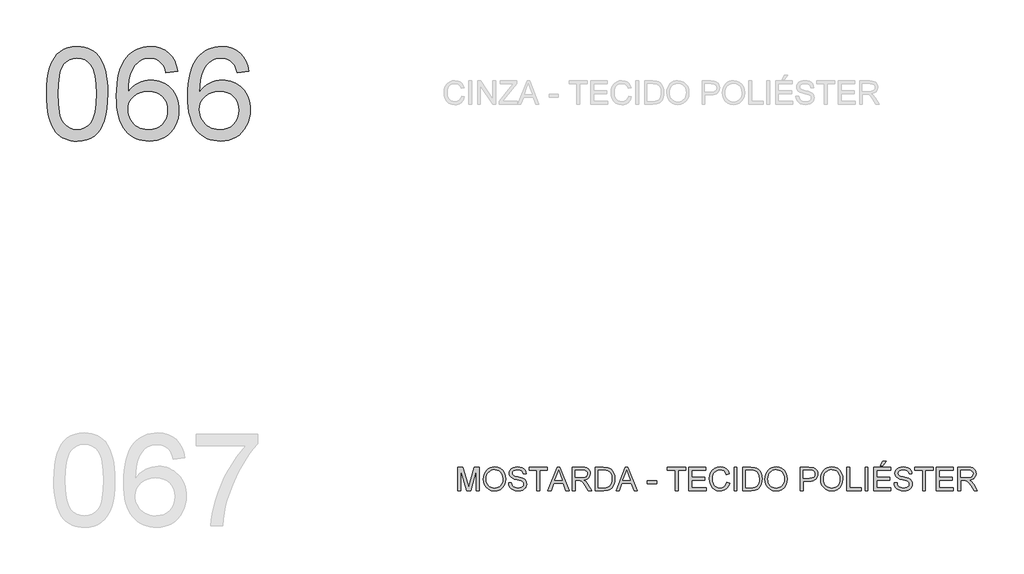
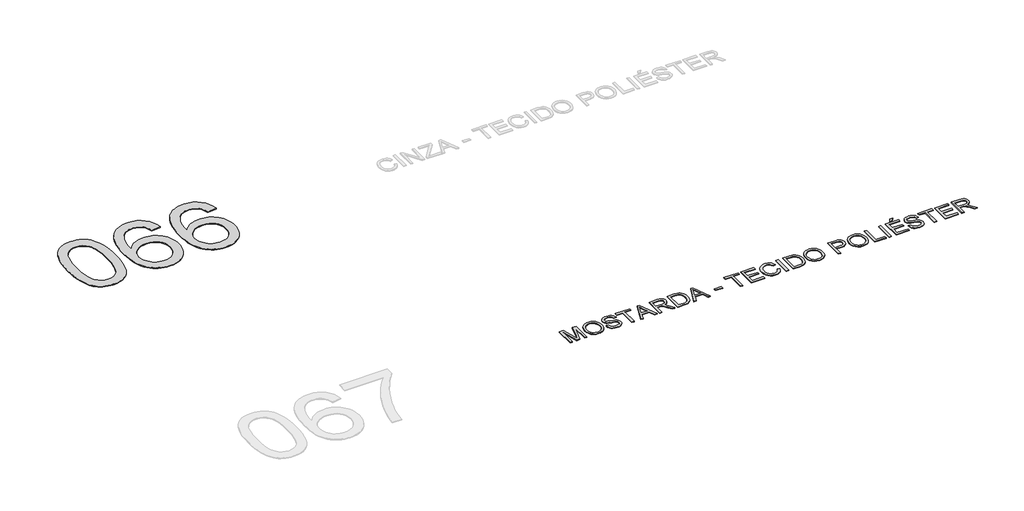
# One storey, part 10 of 35: 2 proxies.
"""IFC4 building model written with IfcOpenShell, lengths in millimetres."""

from ifc_helpers import new_model, si_unit, origin, origin_with_axes, place, context, project, spatial, polyline, outline, extrude, element, save

model = new_model("IFC4")

# Units and contexts
model_context = context("Model", 3, world=origin())
ifc_project = project(units=[si_unit("LENGTHUNIT", "METRE", prefix="MILLI")], contexts=[model_context])

# Site, building, storey
site = spatial("IfcSite", under=ifc_project)
building = spatial("IfcBuilding", under=site)
storey = spatial("IfcBuildingStorey", under=building, Name="Marelli - Linha YOU - Planta Baixa", Elevation=0.0)

# Proxies
placement = place(None, origin())
element("IfcBuildingElementProxy", 1, Name="1200mm Arial", ObjectType="1200mm Arial", at=placement, inside=storey, context=model_context, shape_type="SweptSolid", body=[
    extrude(outline(polyline([(-25275.30917, -89895.792664), (-25272.540858, -89794.4319773), (-25264.2359219, -89702.8385576), (-25250.3943618, -89621.0124048), (-25231.0161777, -89548.953519), (-25206.1841431, -89486.073289), (-25175.9810313, -89431.7831035), (-25140.4068423, -89386.0829627), (-25099.4615763, -89348.9728664), (-25053.0072773, -89320.2596767), (-25000.9059898, -89299.7502555), (-24943.1577136, -89287.4446027), (-24879.7624488, -89283.3427185), (-24832.1217304, -89285.7707396), (-24786.9090332, -89293.0548031), (-24744.1243571, -89305.194909), (-24703.7677023, -89322.1910572), (-24666.8139558, -89343.7581391), (-24634.2380052, -89369.6110463), (-24606.0398502, -89399.7497788), (-24582.2194911, -89434.1743365), (-24561.5813111, -89472.7467637), (-24542.929694, -89515.3291046), (-24511.586148, -89612.5235278), (-24499.611589, -89669.6831928), (-24491.0583327, -89735.9479371), (-24485.9263788, -89811.3177609), (-24484.2157275, -89895.792664), (-24486.9564484, -89996.5095573), (-24495.178611, -90087.6431245), (-24508.8822153, -90169.1933658), (-24528.0672614, -90241.1602811), (-24552.706158, -90304.0681023), (-24582.771314, -90358.4410612), (-24618.2627295, -90404.2791578), (-24659.1804044, -90441.5823921), (-24705.6898857, -90470.4887199), (-24757.9567202, -90491.1360968), (-24815.9809078, -90503.524523), (-24879.7624488, -90507.6539984), (-24922.4367602, -90505.8605737), (-24962.7566269, -90500.4802995), (-25000.7220488, -90491.5131759), (-25036.3330259, -90478.9592028), (-25069.5895583, -90462.8183803), (-25100.4916459, -90443.0907083), (-25129.0392887, -90419.7761868), (-25155.2324867, -90392.8748159), (-25183.3754594, -90350.2786794), (-25207.7660357, -90302.0999336), (-25228.4042156, -90248.3385785), (-25245.2899992, -90188.9946142), (-25258.4233864, -90124.0680406), (-25267.8043773, -90053.5588577), (-25273.4329718, -89977.4670655), (-25275.30917, -89895.792664)]), holes=[polyline([(-25124.6247047, -89895.4983584), (-25120.2101208, -90026.4919399), (-25106.966369, -90132.5247279), (-25097.0335551, -90176.1808245), (-25084.8934493, -90213.5967226), (-25070.5460515, -90244.7724225), (-25053.9913617, -90269.7079239), (-25016.614551, -90307.884878), (-24975.1174619, -90335.1541309), (-24929.5000945, -90351.5156826), (-24879.7624488, -90356.9695332), (-24830.024803, -90351.4972885), (-24784.4074356, -90335.0805545), (-24742.9103465, -90307.7193311), (-24705.5335358, -90269.4136183), (-24688.9788461, -90244.418336), (-24674.6314482, -90213.2104465), (-24662.4913424, -90175.7899498), (-24652.5585285, -90132.1568459), (-24639.3147767, -90026.2528166), (-24634.9001928, -89895.4983584), (-24639.1676239, -89767.9720648), (-24651.9699173, -89663.8062779), (-24661.5716374, -89620.4835744), (-24673.3070731, -89583.0009976), (-24687.1762243, -89551.3585475), (-24703.1790911, -89525.5562241), (-24739.9305024, -89485.5122689), (-24781.905838, -89456.9094438), (-24829.105098, -89439.7477487), (-24881.5282823, -89434.0271837), (-24931.0084107, -89439.067167), (-24975.8532259, -89454.187117), (-25016.062728, -89479.3870337), (-25051.6369169, -89514.666917), (-25068.7434297, -89543.2145599), (-25083.5690741, -89577.2068562), (-25096.1138501, -89616.6438061), (-25106.3777578, -89661.5254095), (-25120.062968, -89767.6225769), (-25124.6247047, -89895.4983584)])]), origin_with_axes(), (0.0, 0.0, 1.0), 10.0),
    extrude(outline(polyline([(-23580.1089362, -89603.5472071), (-23730.7934014, -89622.3827652), (-23741.8666495, -89582.0812927), (-23755.0736131, -89547.7027202), (-23770.4142923, -89519.2470479), (-23787.8886871, -89496.7142757), (-23820.2806967, -89469.2886729), (-23856.2411618, -89449.6989567), (-23895.7700822, -89437.9451269), (-23938.8674579, -89434.0271837), (-23974.4048586, -89436.3080521), (-24008.9121898, -89443.1506572), (-24042.3894513, -89454.554999), (-24074.8366433, -89470.5210776), (-24104.4419469, -89496.6315022), (-24131.4536824, -89528.1681863), (-24155.8718498, -89565.1311297), (-24177.6964492, -89607.5203326), (-24195.7686522, -89658.1316981), (-24208.9296306, -89719.7611293), (-24217.1793843, -89792.4086263), (-24220.5179134, -89876.0741891), (-24191.7955266, -89838.2099347), (-24160.0749016, -89805.5512106), (-24125.3560383, -89778.0980167), (-24087.6389367, -89755.8503531), (-24047.9352724, -89738.6610669), (-24007.2567208, -89726.3830053), (-23965.6032819, -89719.0161683), (-23922.9749557, -89716.560556), (-23886.0763916, -89718.2390176), (-23850.575779, -89723.2744024), (-23816.4731181, -89731.6667104), (-23783.7684087, -89743.4159416), (-23752.4616509, -89758.5220961), (-23722.5528447, -89776.9851737), (-23694.0419901, -89798.8051745), (-23666.9290871, -89823.9820986), (-23642.1660303, -89851.81697), (-23620.7047144, -89881.6108131), (-23602.5451394, -89913.3636278), (-23587.6873053, -89947.0754142), (-23576.1312121, -89982.7461721), (-23567.8768599, -90020.3759017), (-23562.9242485, -90059.9646029), (-23561.273378, -90101.5122757), (-23564.3819809, -90156.4462547), (-23573.7077895, -90209.4120649), (-23589.2508038, -90260.4097065), (-23611.0110238, -90309.4391794), (-23638.2158973, -90354.6702707), (-23670.0928722, -90394.2727675), (-23706.6419484, -90428.2466698), (-23747.863126, -90456.5919775), (-23792.8734881, -90478.9316116), (-23840.790118, -90494.8884932), (-23891.6130156, -90504.4626221), (-23945.342181, -90507.6539984), (-23991.3435252, -90505.5386769), (-24035.1697672, -90499.1927125), (-24076.8209068, -90488.6161052), (-24116.2969442, -90473.8088549), (-24153.5978792, -90454.7709616), (-24188.723712, -90431.5024254), (-24221.6744424, -90404.0032463), (-24252.4500706, -90372.2734242), (-24280.2826428, -90335.6875598), (-24304.4042053, -90293.6202536), (-24324.8147583, -90246.0715057), (-24341.5143016, -90193.0413161), (-24354.5028353, -90134.5296848), (-24363.7803594, -90070.5366117), (-24369.3468738, -90001.062097), (-24371.2023786, -89926.1061404), (-24369.1422394, -89842.1784618), (-24362.9618219, -89764.1828803), (-24352.6611261, -89692.1193959), (-24338.2401519, -89625.9880088), (-24319.6988993, -89565.7887188), (-24297.0373684, -89511.521526), (-24270.2555591, -89463.1864303), (-24239.3534716, -89420.7834319), (-24209.3388993, -89388.5707647), (-24176.8319265, -89360.6531198), (-24141.8325532, -89337.0304971), (-24104.3407793, -89317.7028968), (-24064.356605, -89302.6703188), (-24021.8800301, -89291.9327631), (-23976.9110547, -89285.4902296), (-23929.4496788, -89283.3427185), (-23860.0487404, -89288.6586133), (-23797.2328897, -89304.6062978), (-23741.0021268, -89331.1857719), (-23691.3564515, -89368.3970358), (-23649.6386333, -89414.9892904), (-23617.1914413, -89469.7117372), (-23594.0148756, -89532.5643761), (-23580.1089362, -89603.5472071)]), holes=[polyline([(-24220.5179134, -90099.157831), (-24218.3382126, -90132.9202011), (-24211.7991101, -90165.9284131), (-24200.900606, -90198.182467), (-24185.6427003, -90229.6823629), (-24166.7703539, -90258.9473756), (-24145.028528, -90284.4967801), (-24120.4172225, -90306.3305766), (-24092.9364375, -90324.4487648), (-24062.7609168, -90338.676601), (-24030.0654045, -90348.8393411), (-23994.8499005, -90354.9369852), (-23957.1144049, -90356.9695332), (-23904.7372058, -90352.7572843), (-23857.6759016, -90340.1205378), (-23815.9304922, -90319.0592936), (-23779.5009776, -90289.5735517), (-23749.9508563, -90252.8589286), (-23728.8436268, -90210.1110407), (-23716.1792892, -90161.3298882), (-23711.9578433, -90106.5154709), (-23716.1241069, -90053.8439662), (-23728.6228976, -90007.0769676), (-23749.4542156, -89966.214475), (-23778.6180608, -89931.2564884), (-23815.15794, -89903.2514715), (-23858.1173599, -89883.247888), (-23907.4963208, -89871.2457379), (-23963.2948224, -89867.2450212), (-24014.9730456, -89871.2457379), (-24062.5861729, -89883.247888), (-24106.134204, -89903.2514715), (-24145.6171392, -89931.2564884), (-24178.3862279, -89965.7546225), (-24201.7927198, -90005.2375576), (-24215.836615, -90049.7052938), (-24220.5179134, -90099.157831)])]), origin_with_axes(), (0.0, 0.0, 1.0), 10.0),
    extrude(outline(polyline([(-22657.1665867, -89603.5472071), (-22807.8510519, -89622.3827652), (-22818.9243, -89582.0812927), (-22832.1312636, -89547.7027202), (-22847.4719428, -89519.2470479), (-22864.9463376, -89496.7142757), (-22897.3383472, -89469.2886729), (-22933.2988123, -89449.6989567), (-22972.8277327, -89437.9451269), (-23015.9251084, -89434.0271837), (-23051.4625091, -89436.3080521), (-23085.9698403, -89443.1506572), (-23119.4471018, -89454.554999), (-23151.8942938, -89470.5210776), (-23181.4995974, -89496.6315022), (-23208.5113329, -89528.1681863), (-23232.9295003, -89565.1311297), (-23254.7540997, -89607.5203326), (-23272.8263027, -89658.1316981), (-23285.9872811, -89719.7611293), (-23294.2370348, -89792.4086263), (-23297.5755639, -89876.0741891), (-23268.8531771, -89838.2099347), (-23237.1325521, -89805.5512106), (-23202.4136888, -89778.0980167), (-23164.6965872, -89755.8503531), (-23124.9929229, -89738.6610669), (-23084.3143713, -89726.3830053), (-23042.6609324, -89719.0161683), (-23000.0326062, -89716.560556), (-22963.1340421, -89718.2390176), (-22927.6334295, -89723.2744024), (-22893.5307686, -89731.6667104), (-22860.8260592, -89743.4159416), (-22829.5193014, -89758.5220961), (-22799.6104952, -89776.9851737), (-22771.0996406, -89798.8051745), (-22743.9867376, -89823.9820986), (-22719.2236808, -89851.81697), (-22697.7623649, -89881.6108131), (-22679.6027899, -89913.3636278), (-22664.7449558, -89947.0754142), (-22653.1888626, -89982.7461721), (-22644.9345104, -90020.3759017), (-22639.981899, -90059.9646029), (-22638.3310285, -90101.5122757), (-22641.4396314, -90156.4462547), (-22650.76544, -90209.4120649), (-22666.3084543, -90260.4097065), (-22688.0686743, -90309.4391794), (-22715.2735478, -90354.6702707), (-22747.1505227, -90394.2727675), (-22783.6995989, -90428.2466698), (-22824.9207765, -90456.5919775), (-22869.9311386, -90478.9316116), (-22917.8477685, -90494.8884932), (-22968.6706661, -90504.4626221), (-23022.3998315, -90507.6539984), (-23068.4011757, -90505.5386769), (-23112.2274177, -90499.1927125), (-23153.8785573, -90488.6161052), (-23193.3545947, -90473.8088549), (-23230.6555297, -90454.7709616), (-23265.7813625, -90431.5024254), (-23298.7320929, -90404.0032463), (-23329.5077211, -90372.2734242), (-23357.3402933, -90335.6875598), (-23381.4618558, -90293.6202536), (-23401.8724088, -90246.0715057), (-23418.5719521, -90193.0413161), (-23431.5604858, -90134.5296848), (-23440.8380099, -90070.5366117), (-23446.4045243, -90001.062097), (-23448.2600291, -89926.1061404), (-23446.19989, -89842.1784618), (-23440.0194724, -89764.1828803), (-23429.7187766, -89692.1193959), (-23415.2978024, -89625.9880088), (-23396.7565498, -89565.7887188), (-23374.0950189, -89511.521526), (-23347.3132096, -89463.1864303), (-23316.4111221, -89420.7834319), (-23286.3965498, -89388.5707647), (-23253.889577, -89360.6531198), (-23218.8902037, -89337.0304971), (-23181.3984298, -89317.7028968), (-23141.4142555, -89302.6703188), (-23098.9376806, -89291.9327631), (-23053.9687052, -89285.4902296), (-23006.5073293, -89283.3427185), (-22937.1063909, -89288.6586133), (-22874.2905402, -89304.6062978), (-22818.0597773, -89331.1857719), (-22768.414102, -89368.3970358), (-22726.6962838, -89414.9892904), (-22694.2490918, -89469.7117372), (-22671.0725261, -89532.5643761), (-22657.1665867, -89603.5472071)]), holes=[polyline([(-23297.5755639, -90099.157831), (-23295.3958631, -90132.9202011), (-23288.8567606, -90165.9284131), (-23277.9582565, -90198.182467), (-23262.7003508, -90229.6823629), (-23243.8280044, -90258.9473756), (-23222.0861785, -90284.4967801), (-23197.474873, -90306.3305766), (-23169.994088, -90324.4487648), (-23139.8185673, -90338.676601), (-23107.123055, -90348.8393411), (-23071.907551, -90354.9369852), (-23034.1720554, -90356.9695332), (-22981.7948563, -90352.7572843), (-22934.7335521, -90340.1205378), (-22892.9881427, -90319.0592936), (-22856.5586281, -90289.5735517), (-22827.0085068, -90252.8589286), (-22805.9012773, -90210.1110407), (-22793.2369397, -90161.3298882), (-22789.0154938, -90106.5154709), (-22793.1817574, -90053.8439662), (-22805.6805481, -90007.0769676), (-22826.5118661, -89966.214475), (-22855.6757113, -89931.2564884), (-22892.2155905, -89903.2514715), (-22935.1750105, -89883.247888), (-22984.5539713, -89871.2457379), (-23040.3524729, -89867.2450212), (-23092.0306961, -89871.2457379), (-23139.6438234, -89883.247888), (-23183.1918545, -89903.2514715), (-23222.6747897, -89931.2564884), (-23255.4438784, -89965.7546225), (-23278.8503703, -90005.2375576), (-23292.8942655, -90049.7052938), (-23297.5755639, -90099.157831)])]), origin_with_axes(), (0.0, 0.0, 1.0), 10.0),
])
element("IfcBuildingElementProxy", 2, Name="300mm Arial", ObjectType="300mm Arial", at=placement, inside=storey, context=model_context, shape_type="SweptSolid", body=[
    extrude(outline(polyline([(-19950.8161366, -95030.5663201), (-19950.8161366, -94729.1973896), (-19885.9953291, -94729.1973896), (-19824.3383067, -94941.6124536), (-19811.9038953, -94985.9790223), (-19798.4394142, -94937.9336337), (-19737.8124614, -94729.1973896), (-19672.9916539, -94729.1973896), (-19672.9916539, -95030.5663201), (-19710.6627702, -95030.5663201), (-19710.6627702, -94766.8685059), (-19786.3728848, -95030.5663201), (-19837.4349057, -95030.5663201), (-19913.1450203, -94766.8685059), (-19913.1450203, -95030.5663201), (-19950.8161366, -95030.5663201)])), origin_with_axes(), (0.0, 0.0, 1.0), 10.0),
    extrude(outline(polyline([(-19621.193869, -94883.8549804), (-19618.6830744, -94848.5061192), (-19611.1506905, -94817.213157), (-19598.5967174, -94789.9760937), (-19581.0211551, -94766.7949295), (-19559.4770658, -94748.2858666), (-19535.0175116, -94735.0651074), (-19507.6424926, -94727.1326519), (-19477.3520089, -94724.4885001), (-19437.8230885, -94729.454907), (-19402.3776582, -94744.3541278), (-19372.9470986, -94768.1376988), (-19351.4627901, -94799.7571563), (-19338.3294029, -94837.68579), (-19333.9516071, -94880.3968896), (-19338.5593291, -94923.6782064), (-19352.3824951, -94962.140269), (-19374.6577499, -94993.8149088), (-19404.6217384, -95016.733957), (-19439.763666, -95030.6398965), (-19477.5727381, -95035.2752096), (-19517.7086637, -95030.1524528), (-19553.3564291, -95014.7841825), (-19582.7134123, -94990.5591531), (-19603.9769916, -94958.8661192), (-19616.8896496, -94922.3998164), (-19621.193869, -94883.8549804)]), holes=[polyline([(-19583.5227527, -94884.2228624), (-19581.6396567, -94909.1974513), (-19575.9903688, -94931.3669401), (-19566.574889, -94950.7313286), (-19553.3932173, -94967.2906169), (-19537.3696571, -94980.5527628), (-19519.4285121, -94990.0257242), (-19499.5697821, -94995.709501), (-19477.7934672, -94997.6040933), (-19455.6446719, -94995.6911069), (-19435.5514172, -94989.9521478), (-19417.5137031, -94980.3872159), (-19401.5315296, -94966.9963113), (-19388.4464269, -94950.0875351), (-19379.099925, -94929.9689885), (-19373.4920238, -94906.6406715), (-19371.6227234, -94880.102584), (-19374.8232968, -94846.7540812), (-19384.4250169, -94817.9305269), (-19400.1795633, -94794.358488), (-19421.8386158, -94776.7645316), (-19447.9674345, -94765.8108452), (-19477.1312797, -94762.1596164), (-19498.1511372, -94763.9185522), (-19517.6534814, -94769.1953595), (-19535.6383125, -94777.9900385), (-19552.1056303, -94790.302589), (-19565.8506213, -94806.7262208), (-19575.6684721, -94827.8541437), (-19581.5591825, -94853.6863575), (-19583.5227527, -94884.2228624)])]), origin_with_axes(), (0.0, 0.0, 1.0), 10.0),
    extrude(outline(polyline([(-19296.2804908, -94926.9707502), (-19258.6093745, -94926.9707502), (-19254.2867611, -94947.8756446), (-19246.4692687, -94964.6786547), (-19234.2739805, -94978.0143771), (-19216.8179799, -94988.517408), (-19195.4808241, -94995.332422), (-19171.6420709, -94997.6040933), (-19150.654403, -94995.884245), (-19132.2786974, -94990.7247), (-19117.3886736, -94982.5577197), (-19106.8580515, -94971.8155654), (-19100.5948605, -94959.4823216), (-19098.5071302, -94946.5420724), (-19100.0706287, -94933.932917), (-19104.7611241, -94923.0344129), (-19114.2892678, -94913.7361955), (-19130.365711, -94905.9279001), (-19185.2169165, -94891.5437141), (-19221.2233668, -94882.0247675), (-19244.2619767, -94872.9656733), (-19263.0147614, -94860.2921386), (-19276.3044985, -94844.9330653), (-19284.2231584, -94827.2195472), (-19286.8627118, -94807.4826782), (-19283.597759, -94785.4189555), (-19273.8029009, -94764.845155), (-19257.7356548, -94747.4075484), (-19235.653538, -94734.7524077), (-19209.1476403, -94727.054477), (-19179.8090512, -94724.4885001), (-19148.0240468, -94727.1740386), (-19120.2121679, -94735.2306543), (-19097.366696, -94748.4928003), (-19080.4809125, -94766.7949295), (-19069.7939405, -94788.9966079), (-19065.5449035, -94813.9574013), (-19103.2160198, -94813.9574013), (-19110.1322013, -94791.4798114), (-19124.5531755, -94775.2562154), (-19147.0859477, -94765.4337661), (-19178.3375232, -94762.1596164), (-19210.3248627, -94765.3969779), (-19232.2690237, -94775.1090626), (-19244.9609525, -94789.4012781), (-19249.1915954, -94806.3790322), (-19246.1933572, -94820.8551887), (-19237.1986424, -94832.4986539), (-19215.9350631, -94842.9097143), (-19175.6887728, -94853.541504), (-19134.1548956, -94863.6398648), (-19109.0285553, -94872.4506385), (-19087.5534438, -94886.1174547), (-19072.5714496, -94902.9848441), (-19063.7698728, -94922.868866), (-19060.8360139, -94945.5855792), (-19064.2113312, -94968.8081301), (-19074.3372831, -94990.6511236), (-19090.8000024, -95009.4498935), (-19113.1856218, -95023.539774), (-19140.1053868, -95032.3413507), (-19170.1705429, -95035.2752096), (-19207.078304, -95032.1114244), (-19237.4561598, -95022.620069), (-19261.653598, -95006.764355), (-19280.0201066, -94984.5074943), (-19291.8107246, -94957.3945912), (-19296.2804908, -94926.9707502)])), origin_with_axes(), (0.0, 0.0, 1.0), 10.0),
    extrude(outline(polyline([(-18928.9871068, -95030.5663201), (-18928.9871068, -94766.8685059), (-19027.8737871, -94766.8685059), (-19027.8737871, -94729.1973896), (-18792.4293102, -94729.1973896), (-18792.4293102, -94766.8685059), (-18891.3159905, -94766.8685059), (-18891.3159905, -95030.5663201), (-18928.9871068, -95030.5663201)])), origin_with_axes(), (0.0, 0.0, 1.0), 10.0),
    extrude(outline(polyline([(-18785.1452467, -95030.5663201), (-18664.8478343, -94729.1973896), (-18632.7685243, -94729.1973896), (-18512.4711119, -95030.5663201), (-18552.2759438, -95030.5663201), (-18586.7832749, -94936.3885293), (-18710.9066601, -94936.3885293), (-18745.3404149, -95030.5663201), (-18785.1452467, -95030.5663201)]), holes=[polyline([(-18697.0742971, -94898.717413), (-18600.5420615, -94898.717413), (-18627.6917528, -94824.6259792), (-18648.8081793, -94766.8685059), (-18667.5701611, -94818.1512561), (-18697.0742971, -94898.717413)])]), origin_with_axes(), (0.0, 0.0, 1.0), 10.0),
    extrude(outline(polyline([(-18472.2248216, -95030.5663201), (-18472.2248216, -94729.1973896), (-18342.3624773, -94729.1973896), (-18307.459673, -94731.2299376), (-18282.0666183, -94737.3275817), (-18263.5069717, -94748.5847708), (-18249.1043916, -94766.0959537), (-18239.8613564, -94787.8101885), (-18236.7803447, -94811.6765329), (-18241.8847074, -94841.3646099), (-18257.1977955, -94865.9759154), (-18268.7975746, -94876.0052983), (-18283.1794614, -94884.0205273), (-18320.2895576, -94894.0085235), (-18298.8788255, -94910.1217548), (-18268.3446199, -94948.8965171), (-18218.0919394, -95030.5663201), (-18261.8698968, -95030.5663201), (-18301.0861175, -94968.0999573), (-18329.4130311, -94926.750021), (-18349.315447, -94907.2154871), (-18367.2313002, -94900.0417882), (-18389.0834907, -94898.717413), (-18434.5537053, -94898.717413), (-18434.5537053, -95030.5663201), (-18472.2248216, -95030.5663201)]), holes=[polyline([(-18434.5537053, -94861.0462967), (-18350.235152, -94861.0462967), (-18326.0193197, -94859.7127245), (-18307.2297468, -94855.7120078), (-18293.0846841, -94848.7774322), (-18282.8023823, -94838.6422832), (-18276.5391913, -94826.3826157), (-18274.451461, -94813.0744845), (-18278.4337836, -94794.6987789), (-18290.3807514, -94779.8915286), (-18310.9361579, -94770.1242616), (-18340.7437966, -94766.8685059), (-18434.5537053, -94766.8685059), (-18434.5537053, -94861.0462967)])]), origin_with_axes(), (0.0, 0.0, 1.0), 10.0),
    extrude(outline(polyline([(-18170.8558912, -95030.5663201), (-18170.8558912, -94729.1973896), (-18066.8924393, -94729.1973896), (-18013.1080917, -94733.5383972), (-17989.0853974, -94741.9077126), (-17968.8150994, -94755.0962821), (-17947.9745844, -94778.0521186), (-17933.1305459, -94806.5997614), (-17924.2461957, -94840.1873876), (-17921.2847457, -94878.2631741), (-17923.2897025, -94910.6091985), (-17929.3045732, -94939.0740679), (-17938.4648348, -94963.3082943), (-17949.9059649, -94982.9623899), (-17963.0761403, -94998.477813), (-17977.4235381, -95010.2960221), (-17993.8954545, -95019.0608107), (-18013.4391854, -95025.4159721), (-18061.8892442, -95030.5663201), (-18170.8558912, -95030.5663201)]), holes=[polyline([(-18133.1847749, -94992.8952038), (-18066.5245574, -94992.8952038), (-18038.9518018, -94991.5340404), (-18018.0377104, -94987.4505502), (-18002.2555728, -94980.8838566), (-17990.0786788, -94972.0730828), (-17976.9912768, -94955.7667134), (-17967.1596305, -94934.6594839), (-17961.0068041, -94908.6594239), (-17958.955862, -94877.6745629), (-17962.9749728, -94836.6189322), (-17975.0323052, -94806.3054558), (-17992.8469908, -94785.4833349), (-18014.1381612, -94772.9017706), (-18035.8064108, -94768.3768221), (-18067.5546269, -94766.8685059), (-18133.1847749, -94766.8685059), (-18133.1847749, -94992.8952038)])]), origin_with_axes(), (0.0, 0.0, 1.0), 10.0),
    extrude(outline(polyline([(-17904.5829031, -95030.5663201), (-17784.2854907, -94729.1973896), (-17752.2061807, -94729.1973896), (-17631.9087682, -95030.5663201), (-17671.7136001, -95030.5663201), (-17706.2209313, -94936.3885293), (-17830.3443164, -94936.3885293), (-17864.7780712, -95030.5663201), (-17904.5829031, -95030.5663201)]), holes=[polyline([(-17816.5119534, -94898.717413), (-17719.9797179, -94898.717413), (-17747.1294091, -94824.6259792), (-17768.2458357, -94766.8685059), (-17787.0078174, -94818.1512561), (-17816.5119534, -94898.717413)])]), origin_with_axes(), (0.0, 0.0, 1.0), 10.0),
    extrude(outline(polyline([(-17497.4846872, -94941.0974188), (-17497.4846872, -94903.4263025), (-17379.7624488, -94903.4263025), (-17379.7624488, -94941.0974188), (-17497.4846872, -94941.0974188)])), origin_with_axes(), (0.0, 0.0, 1.0), 10.0),
    extrude(outline(polyline([(-17139.6090823, -95030.5663201), (-17139.6090823, -94766.8685059), (-17238.4957626, -94766.8685059), (-17238.4957626, -94729.1973896), (-17003.0512857, -94729.1973896), (-17003.0512857, -94766.8685059), (-17101.937966, -94766.8685059), (-17101.937966, -95030.5663201), (-17139.6090823, -95030.5663201)])), origin_with_axes(), (0.0, 0.0, 1.0), 10.0),
    extrude(outline(polyline([(-16960.6712798, -95030.5663201), (-16960.6712798, -94729.1973896), (-16744.0623611, -94729.1973896), (-16744.0623611, -94766.8685059), (-16923.0001635, -94766.8685059), (-16923.0001635, -94856.3374072), (-16753.4801402, -94856.3374072), (-16753.4801402, -94894.0085235), (-16923.0001635, -94894.0085235), (-16923.0001635, -94992.8952038), (-16739.3534716, -94992.8952038), (-16739.3534716, -95030.5663201), (-16960.6712798, -95030.5663201)])), origin_with_axes(), (0.0, 0.0, 1.0), 10.0),
    extrude(outline(polyline([(-16470.9467679, -94923.4390831), (-16433.2756516, -94933.1511677), (-16440.7298605, -94956.5783531), (-16450.6580758, -94977.0486868), (-16463.0602976, -94994.5621691), (-16477.9365258, -95009.1187997), (-16494.9510681, -95020.5622291), (-16513.7682321, -95028.7361071), (-16534.3880179, -95033.640434), (-16556.8104255, -95035.2752096), (-16600.5056095, -95030.3271968), (-16635.2060787, -95015.4831583), (-16661.803947, -94991.2581289), (-16681.1913281, -94958.1671434), (-16693.0279313, -94919.2636224), (-16696.9734657, -94877.6009865), (-16692.5128965, -94833.6574822), (-16679.1311889, -94795.7104543), (-16657.5273188, -94764.9647166), (-16628.4002618, -94742.6250824), (-16593.8561425, -94729.0226457), (-16556.0010852, -94724.4885001), (-16514.6971341, -94730.3562179), (-16496.7283979, -94737.6908652), (-16480.5484879, -94747.9593714), (-16466.4241186, -94760.8904235), (-16454.6220043, -94776.2127086), (-16437.9845411, -94814.0309777), (-16475.6556574, -94823.0072984), (-16488.7154682, -94795.5357104), (-16506.557745, -94776.6909552), (-16529.4032169, -94765.7924511), (-16557.4726131, -94762.1596164), (-16589.8278346, -94766.1879242), (-16616.4073088, -94778.2728478), (-16636.5764391, -94797.1451941), (-16649.7006293, -94821.5357704), (-16656.9019194, -94849.1085259), (-16659.3023494, -94877.5274101), (-16656.460461, -94912.3290468), (-16647.9347958, -94942.421794), (-16633.4034569, -94966.6560205), (-16612.5445478, -94983.8820949), (-16587.5377692, -94994.1735937), (-16560.5628219, -94997.6040933), (-16529.1181084, -94992.931992), (-16502.9157133, -94978.9156879), (-16483.132859, -94955.7023341), (-16470.9467679, -94923.4390831)])), origin_with_axes(), (0.0, 0.0, 1.0), 10.0),
    extrude(outline(polyline([(-16376.7689771, -95030.5663201), (-16376.7689771, -94729.1973896), (-16339.0978608, -94729.1973896), (-16339.0978608, -95030.5663201), (-16376.7689771, -95030.5663201)])), origin_with_axes(), (0.0, 0.0, 1.0), 10.0),
    extrude(outline(polyline([(-16263.7556282, -95030.5663201), (-16263.7556282, -94729.1973896), (-16159.7921763, -94729.1973896), (-16106.0078287, -94733.5383972), (-16081.9851344, -94741.9077126), (-16061.7148364, -94755.0962821), (-16040.8743214, -94778.0521186), (-16026.0302829, -94806.5997614), (-16017.1459327, -94840.1873876), (-16014.1844827, -94878.2631741), (-16016.1894395, -94910.6091985), (-16022.2043102, -94939.0740679), (-16031.3645718, -94963.3082943), (-16042.8057019, -94982.9623899), (-16055.9758773, -94998.477813), (-16070.3232751, -95010.2960221), (-16086.7951915, -95019.0608107), (-16106.3389225, -95025.4159721), (-16154.7889812, -95030.5663201), (-16263.7556282, -95030.5663201)]), holes=[polyline([(-16226.0845119, -94992.8952038), (-16159.4242944, -94992.8952038), (-16131.8515388, -94991.5340404), (-16110.9374474, -94987.4505502), (-16095.1553098, -94980.8838566), (-16082.9784158, -94972.0730828), (-16069.8910138, -94955.7667134), (-16060.0593675, -94934.6594839), (-16053.9065411, -94908.6594239), (-16051.855599, -94877.6745629), (-16055.8747098, -94836.6189322), (-16067.9320422, -94806.3054558), (-16085.7467278, -94785.4833349), (-16107.0378982, -94772.9017706), (-16128.7061478, -94768.3768221), (-16160.4543639, -94766.8685059), (-16226.0845119, -94766.8685059), (-16226.0845119, -94992.8952038)])]), origin_with_axes(), (0.0, 0.0, 1.0), 10.0),
    extrude(outline(polyline([(-15976.5133664, -94883.8549804), (-15974.0025717, -94848.5061192), (-15966.4701879, -94817.213157), (-15953.9162148, -94789.9760937), (-15936.3406525, -94766.7949295), (-15914.7965631, -94748.2858666), (-15890.337009, -94735.0651074), (-15862.96199, -94727.1326519), (-15832.6715062, -94724.4885001), (-15793.1425859, -94729.454907), (-15757.6971556, -94744.3541278), (-15728.266596, -94768.1376988), (-15706.7822875, -94799.7571563), (-15693.6489003, -94837.68579), (-15689.2711045, -94880.3968896), (-15693.8788265, -94923.6782064), (-15707.7019925, -94962.140269), (-15729.9772473, -94993.8149088), (-15759.9412358, -95016.733957), (-15795.0831634, -95030.6398965), (-15832.8922354, -95035.2752096), (-15873.0281611, -95030.1524528), (-15908.6759264, -95014.7841825), (-15938.0329097, -94990.5591531), (-15959.296489, -94958.8661192), (-15972.209147, -94922.3998164), (-15976.5133664, -94883.8549804)]), holes=[polyline([(-15938.84225, -94884.2228624), (-15936.9591541, -94909.1974513), (-15931.3098662, -94931.3669401), (-15921.8943864, -94950.7313286), (-15908.7127146, -94967.2906169), (-15892.6891545, -94980.5527628), (-15874.7480094, -94990.0257242), (-15854.8892795, -94995.709501), (-15833.1129646, -94997.6040933), (-15810.9641693, -94995.6911069), (-15790.8709145, -94989.9521478), (-15772.8332005, -94980.3872159), (-15756.851027, -94966.9963113), (-15743.7659243, -94950.0875351), (-15734.4194224, -94929.9689885), (-15728.8115212, -94906.6406715), (-15726.9422208, -94880.102584), (-15730.1427942, -94846.7540812), (-15739.7445143, -94817.9305269), (-15755.4990607, -94794.358488), (-15777.1581132, -94776.7645316), (-15803.2869319, -94765.8108452), (-15832.450777, -94762.1596164), (-15853.4706345, -94763.9185522), (-15872.9729788, -94769.1953595), (-15890.9578098, -94777.9900385), (-15907.4251277, -94790.302589), (-15921.1701187, -94806.7262208), (-15930.9879694, -94827.8541437), (-15936.8786799, -94853.6863575), (-15938.84225, -94884.2228624)])]), origin_with_axes(), (0.0, 0.0, 1.0), 10.0),
    extrude(outline(polyline([(-15519.7510811, -95030.5663201), (-15519.7510811, -94729.1973896), (-15408.0621074, -94729.1973896), (-15363.0333512, -94732.0668692), (-15342.9561913, -94737.4287493), (-15326.4290927, -94746.1567496), (-15313.1209615, -94758.6463433), (-15302.700704, -94775.2930036), (-15295.9684635, -94794.9287051), (-15293.7243833, -94816.3854225), (-15295.2395973, -94834.8852883), (-15299.7852392, -94851.9044291), (-15307.361309, -94867.4428449), (-15317.9678068, -94881.5005356), (-15332.529036, -94893.1531978), (-15351.9693002, -94901.476528), (-15376.2885993, -94906.470526), (-15405.4869334, -94908.1351921), (-15482.0799648, -94908.1351921), (-15482.0799648, -95030.5663201), (-15519.7510811, -95030.5663201)]), holes=[polyline([(-15482.0799648, -94870.4640758), (-15403.2796415, -94870.4640758), (-15369.8759563, -94867.005985), (-15347.8030366, -94856.6317127), (-15335.4973839, -94839.9850525), (-15331.3954996, -94817.7097977), (-15333.8143237, -94800.7872259), (-15341.0707961, -94786.5134045), (-15352.2636058, -94775.7712502), (-15366.491442, -94769.4436799), (-15404.1625583, -94766.8685059), (-15482.0799648, -94766.8685059), (-15482.0799648, -94870.4640758)])]), origin_with_axes(), (0.0, 0.0, 1.0), 10.0),
    extrude(outline(polyline([(-15256.053267, -94883.8549804), (-15253.5424724, -94848.5061192), (-15246.0100885, -94817.213157), (-15233.4561154, -94789.9760937), (-15215.8805531, -94766.7949295), (-15194.3364638, -94748.2858666), (-15169.8769096, -94735.0651074), (-15142.5018907, -94727.1326519), (-15112.2114069, -94724.4885001), (-15072.6824865, -94729.454907), (-15037.2370563, -94744.3541278), (-15007.8064967, -94768.1376988), (-14986.3221881, -94799.7571563), (-14973.1888009, -94837.68579), (-14968.8110052, -94880.3968896), (-14973.4187272, -94923.6782064), (-14987.2418931, -94962.140269), (-15009.5171479, -94993.8149088), (-15039.4811364, -95016.733957), (-15074.623064, -95030.6398965), (-15112.4321361, -95035.2752096), (-15152.5680618, -95030.1524528), (-15188.2158271, -95014.7841825), (-15217.5728103, -94990.5591531), (-15238.8363896, -94958.8661192), (-15251.7490477, -94922.3998164), (-15256.053267, -94883.8549804)]), holes=[polyline([(-15218.3821507, -94884.2228624), (-15216.4990547, -94909.1974513), (-15210.8497668, -94931.3669401), (-15201.434287, -94950.7313286), (-15188.2526153, -94967.2906169), (-15172.2290551, -94980.5527628), (-15154.2879101, -94990.0257242), (-15134.4291801, -94995.709501), (-15112.6528653, -94997.6040933), (-15090.5040699, -94995.6911069), (-15070.4108152, -94989.9521478), (-15052.3731011, -94980.3872159), (-15036.3909277, -94966.9963113), (-15023.305825, -94950.0875351), (-15013.959323, -94929.9689885), (-15008.3514219, -94906.6406715), (-15006.4821215, -94880.102584), (-15009.6826948, -94846.7540812), (-15019.2844149, -94817.9305269), (-15035.0389613, -94794.358488), (-15056.6980138, -94776.7645316), (-15082.8268325, -94765.8108452), (-15111.9906777, -94762.1596164), (-15133.0105352, -94763.9185522), (-15152.5128795, -94769.1953595), (-15170.4977105, -94777.9900385), (-15186.9650283, -94790.302589), (-15200.7100193, -94806.7262208), (-15210.5278701, -94827.8541437), (-15216.4185805, -94853.6863575), (-15218.3821507, -94884.2228624)])]), origin_with_axes(), (0.0, 0.0, 1.0), 10.0),
    extrude(outline(polyline([(-14917.0132202, -95030.5663201), (-14917.0132202, -94729.1973896), (-14879.3421039, -94729.1973896), (-14879.3421039, -94992.8952038), (-14728.6576387, -94992.8952038), (-14728.6576387, -95030.5663201), (-14917.0132202, -95030.5663201)])), origin_with_axes(), (0.0, 0.0, 1.0), 10.0),
    extrude(outline(polyline([(-14681.5687433, -95030.5663201), (-14681.5687433, -94729.1973896), (-14643.897627, -94729.1973896), (-14643.897627, -95030.5663201), (-14681.5687433, -95030.5663201)])), origin_with_axes(), (0.0, 0.0, 1.0), 10.0),
    extrude(outline(polyline([(-14568.5553944, -95030.5663201), (-14568.5553944, -94729.1973896), (-14351.9464757, -94729.1973896), (-14351.9464757, -94766.8685059), (-14530.8842781, -94766.8685059), (-14530.8842781, -94856.3374072), (-14361.3642547, -94856.3374072), (-14361.3642547, -94894.0085235), (-14530.8842781, -94894.0085235), (-14530.8842781, -94992.8952038), (-14347.2375861, -94992.8952038), (-14347.2375861, -95030.5663201), (-14568.5553944, -95030.5663201)])), origin_with_axes(), (0.0, 0.0, 1.0), 10.0),
    extrude(outline(polyline([(-14483.7953827, -94710.3618315), (-14455.5420455, -94653.855157), (-14408.4531501, -94653.855157), (-14455.5420455, -94710.3618315), (-14483.7953827, -94710.3618315)])), origin_with_axes(), (0.0, 0.0, 1.0), 10.0),
    extrude(outline(polyline([(-14304.8575803, -94926.9707502), (-14267.186464, -94926.9707502), (-14262.8638505, -94947.8756446), (-14255.0463581, -94964.6786547), (-14242.85107, -94978.0143771), (-14225.3950693, -94988.517408), (-14204.0579136, -94995.332422), (-14180.2191603, -94997.6040933), (-14159.2314925, -94995.884245), (-14140.8557868, -94990.7247), (-14125.9657631, -94982.5577197), (-14115.435141, -94971.8155654), (-14109.17195, -94959.4823216), (-14107.0842197, -94946.5420724), (-14108.6477181, -94933.932917), (-14113.3382136, -94923.0344129), (-14122.8663573, -94913.7361955), (-14138.9428004, -94905.9279001), (-14193.7940059, -94891.5437141), (-14229.8004562, -94882.0247675), (-14252.8390662, -94872.9656733), (-14271.5918509, -94860.2921386), (-14284.8815879, -94844.9330653), (-14292.8002479, -94827.2195472), (-14295.4398012, -94807.4826782), (-14292.1748485, -94785.4189555), (-14282.3799904, -94764.845155), (-14266.3127442, -94747.4075484), (-14244.2306275, -94734.7524077), (-14217.7247297, -94727.054477), (-14188.3861406, -94724.4885001), (-14156.6011362, -94727.1740386), (-14128.7892574, -94735.2306543), (-14105.9437855, -94748.4928003), (-14089.0580019, -94766.7949295), (-14078.3710299, -94788.9966079), (-14074.1219929, -94813.9574013), (-14111.7931092, -94813.9574013), (-14118.7092907, -94791.4798114), (-14133.1302649, -94775.2562154), (-14155.6630371, -94765.4337661), (-14186.9146126, -94762.1596164), (-14218.9019521, -94765.3969779), (-14240.8461131, -94775.1090626), (-14253.5380419, -94789.4012781), (-14257.7686849, -94806.3790322), (-14254.7704466, -94820.8551887), (-14245.7757318, -94832.4986539), (-14224.5121525, -94842.9097143), (-14184.2658623, -94853.541504), (-14142.731985, -94863.6398648), (-14117.6056447, -94872.4506385), (-14096.1305333, -94886.1174547), (-14081.148539, -94902.9848441), (-14072.3469623, -94922.868866), (-14069.4131034, -94945.5855792), (-14072.7884207, -94968.8081301), (-14082.9143726, -94990.6511236), (-14099.3770919, -95009.4498935), (-14121.7627113, -95023.539774), (-14148.6824763, -95032.3413507), (-14178.7476323, -95035.2752096), (-14215.6553935, -95032.1114244), (-14246.0332492, -95022.620069), (-14270.2306875, -95006.764355), (-14288.5971961, -94984.5074943), (-14300.387814, -94957.3945912), (-14304.8575803, -94926.9707502)])), origin_with_axes(), (0.0, 0.0, 1.0), 10.0),
    extrude(outline(polyline([(-13937.5641963, -95030.5663201), (-13937.5641963, -94766.8685059), (-14036.4508766, -94766.8685059), (-14036.4508766, -94729.1973896), (-13801.0063997, -94729.1973896), (-13801.0063997, -94766.8685059), (-13899.89308, -94766.8685059), (-13899.89308, -95030.5663201), (-13937.5641963, -95030.5663201)])), origin_with_axes(), (0.0, 0.0, 1.0), 10.0),
    extrude(outline(polyline([(-13758.6263938, -95030.5663201), (-13758.6263938, -94729.1973896), (-13542.0174751, -94729.1973896), (-13542.0174751, -94766.8685059), (-13720.9552775, -94766.8685059), (-13720.9552775, -94856.3374072), (-13551.4352541, -94856.3374072), (-13551.4352541, -94894.0085235), (-13720.9552775, -94894.0085235), (-13720.9552775, -94992.8952038), (-13537.3085855, -94992.8952038), (-13537.3085855, -95030.5663201), (-13758.6263938, -95030.5663201)])), origin_with_axes(), (0.0, 0.0, 1.0), 10.0),
    extrude(outline(polyline([(-13480.8019111, -95030.5663201), (-13480.8019111, -94729.1973896), (-13350.9395668, -94729.1973896), (-13316.0367625, -94731.2299376), (-13290.6437078, -94737.3275817), (-13272.0840611, -94748.5847708), (-13257.681481, -94766.0959537), (-13248.4384459, -94787.8101885), (-13245.3574342, -94811.6765329), (-13250.4617968, -94841.3646099), (-13265.7748849, -94865.9759154), (-13277.3746641, -94876.0052983), (-13291.7565508, -94884.0205273), (-13328.8666471, -94894.0085235), (-13307.4559149, -94910.1217548), (-13276.9217093, -94948.8965171), (-13226.6690288, -95030.5663201), (-13270.4469862, -95030.5663201), (-13309.6632069, -94968.0999573), (-13337.9901205, -94926.750021), (-13357.8925365, -94907.2154871), (-13375.8083897, -94900.0417882), (-13397.6605802, -94898.717413), (-13443.1307948, -94898.717413), (-13443.1307948, -95030.5663201), (-13480.8019111, -95030.5663201)]), holes=[polyline([(-13443.1307948, -94861.0462967), (-13358.8122415, -94861.0462967), (-13334.5964091, -94859.7127245), (-13315.8068362, -94855.7120078), (-13301.6617735, -94848.7774322), (-13291.3794718, -94838.6422832), (-13285.1162808, -94826.3826157), (-13283.0285505, -94813.0744845), (-13287.0108731, -94794.6987789), (-13298.9578409, -94779.8915286), (-13319.5132473, -94770.1242616), (-13349.320886, -94766.8685059), (-13443.1307948, -94766.8685059), (-13443.1307948, -94861.0462967)])]), origin_with_axes(), (0.0, 0.0, 1.0), 10.0),
])

save(model, "model.ifc")
